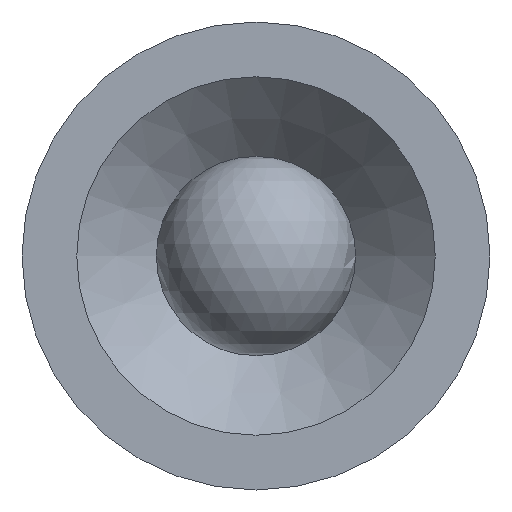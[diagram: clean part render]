
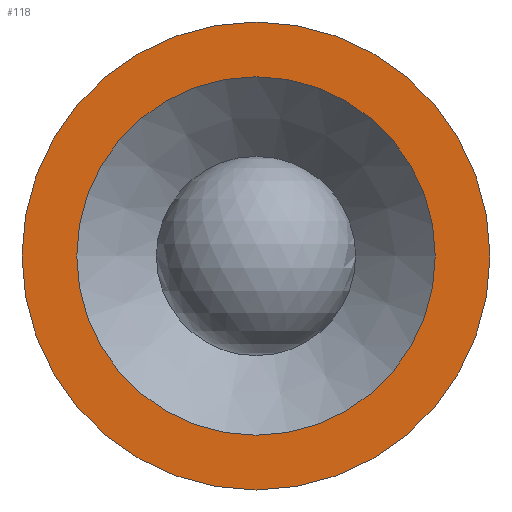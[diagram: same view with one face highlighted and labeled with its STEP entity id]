
A CAD part, left-side view. The second image highlights one B-rep face of the part: STEP entity #118.
In plain terms, the highlighted planar face has unit normal (-1, 0, 0).
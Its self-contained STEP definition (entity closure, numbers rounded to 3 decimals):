
#13=PLANE($,#136);
#21=FACE_BOUND($,#51,.T.);
#37=FACE_OUTER_BOUND($,#50,.T.);
#50=EDGE_LOOP($,(#100));
#51=EDGE_LOOP($,(#101));
#66=CIRCLE($,#135,0.914);
#67=CIRCLE($,#137,1.194);
#76=VERTEX_POINT($,#204);
#77=VERTEX_POINT($,#207);
#86=EDGE_CURVE($,#76,#76,#66,.T.);
#87=EDGE_CURVE($,#77,#77,#67,.T.);
#100=ORIENTED_EDGE($,*,*,#87,.F.);
#101=ORIENTED_EDGE($,*,*,#86,.T.);
#118=ADVANCED_FACE($,(#37,#21),#13,.T.);
#135=AXIS2_PLACEMENT_3D($,#205,#165,#166);
#136=AXIS2_PLACEMENT_3D($,#206,#167,#168);
#137=AXIS2_PLACEMENT_3D($,#208,#169,#170);
#165=DIRECTION('center_axis',(1.,0.,0.));
#166=DIRECTION('ref_axis',(0.,1.,0.));
#167=DIRECTION('center_axis',(-1.,0.,0.));
#168=DIRECTION('ref_axis',(0.,0.,1.));
#169=DIRECTION('center_axis',(1.,0.,0.));
#170=DIRECTION('ref_axis',(0.,1.,0.));
#204=CARTESIAN_POINT('',(7.645,0.914,0.));
#205=CARTESIAN_POINT('Origin',(7.645,0.,0.));
#206=CARTESIAN_POINT('Origin',(7.645,1.054,0.));
#207=CARTESIAN_POINT('',(7.645,1.194,0.));
#208=CARTESIAN_POINT('Origin',(7.645,0.,0.));
